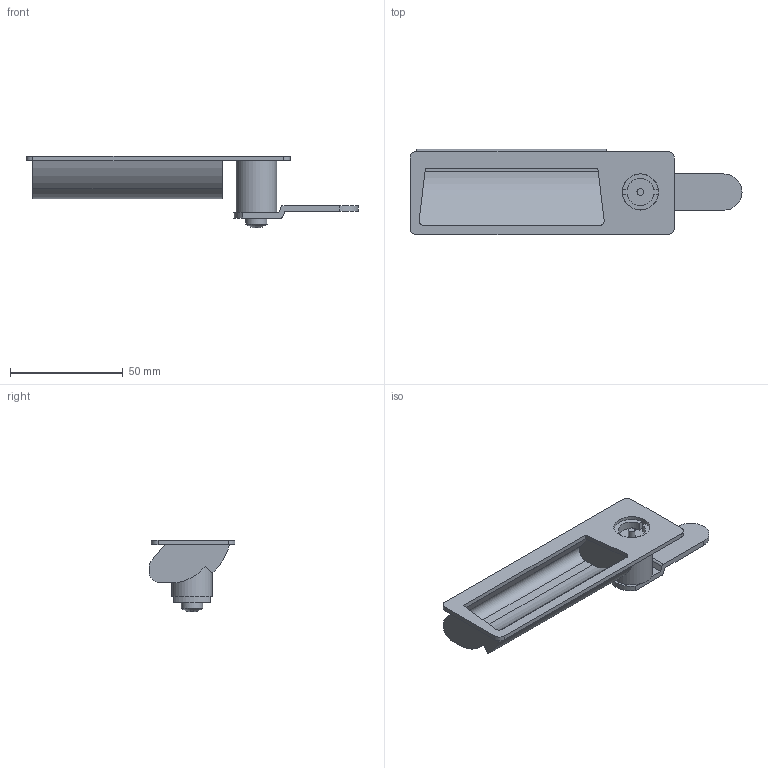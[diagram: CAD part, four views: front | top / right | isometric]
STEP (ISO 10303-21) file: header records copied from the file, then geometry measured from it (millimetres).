
FILE_DESCRIPTION( ( 'STEP AP203' ), '1' );
FILE_NAME( 'C:/Temp/Ganter_Step_05_03_2020/data/3_3/gn731_5/gn731_5_2/Latche with gripping tray GN 731.5-VDE-3-45-2-SG (0-20).stp', '2020-03-12T11:49:39', ( 'License CC BY-ND 4.0' ), ( 'CADENAS' ), ' ', 'PARTsolutions', ' ' );
FILE_SCHEMA( ( 'CONFIG_CONTROL_DESIGN' ) );
Length unit declared in the file: millimetre
Products named in the file (3): Latche with gripping tray GN 731.5-VDE-3-45-2-SG (0-20); _Latche with gripping tray GN 731.5-VDE-3-45-2-SG (0)_1; _Latche with gripping tray GN 731.5-VDE-3-45-2-SG (0-20)_2
Assembly tree (2 placements, depth 2):
  Latche with gripping tray GN 731.5-VDE-3-45-2-SG (0-20)
    _Latche with gripping tray GN 731.5-VDE-3-45-2-SG (0)_1
    _Latche with gripping tray GN 731.5-VDE-3-45-2-SG (0-20)_2
Bounding box: 147 x 38 x 31.88 mm (x, y, z)
Volume: 24471.9 mm3; surface area: 20399.5 mm2
Topology: 2 solids, 2 shells, 96 faces, 248 edges, 162 vertices
Faces by surface type: plane 70, cylinder 25, sphere 1
Full cylindrical faces by diameter (mm): 3 x1, 9.5 x1, 16 x1, 18 x1
Entity records: 2977 total; most frequent: DIRECTION 511, CARTESIAN_POINT 496, ORIENTED_EDGE 478, EDGE_CURVE 239, AXIS2_PLACEMENT_3D 173, LINE 165, VECTOR 165, VERTEX_POINT 158
